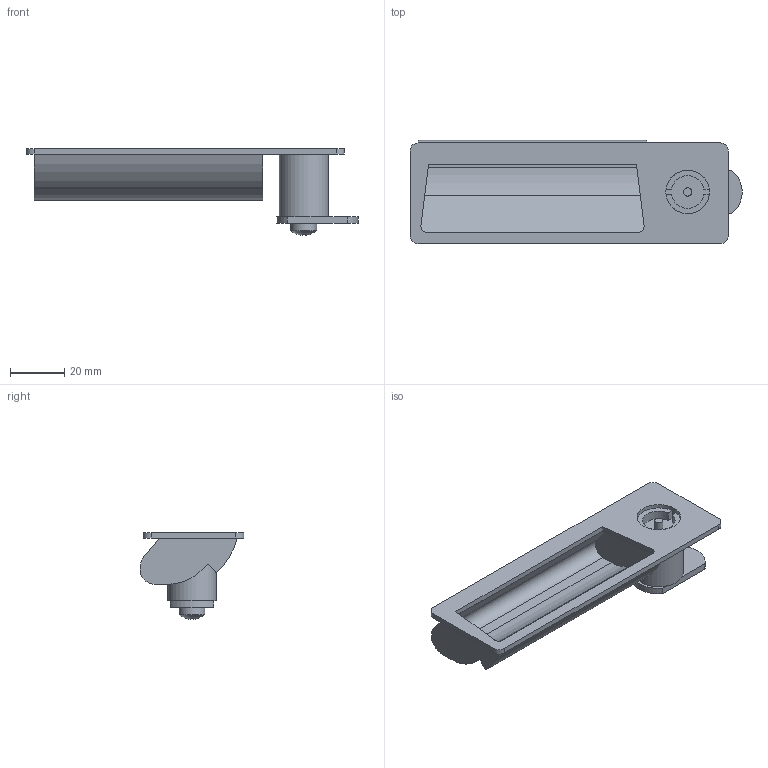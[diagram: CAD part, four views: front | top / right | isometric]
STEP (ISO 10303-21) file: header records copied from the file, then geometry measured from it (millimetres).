
FILE_DESCRIPTION( ( 'STEP AP203' ), '1' );
FILE_NAME( 'C:/Temp/Ganter_Step_05_03_2020/data/3_3/gn731_5/gn731_5_2/Latche with gripping tray GN 731.5-VDE-0-20-2-SG (0-23).stp', '2020-03-12T11:49:36', ( 'License CC BY-ND 4.0' ), ( 'CADENAS' ), ' ', 'PARTsolutions', ' ' );
FILE_SCHEMA( ( 'CONFIG_CONTROL_DESIGN' ) );
Length unit declared in the file: millimetre
Products named in the file (3): Latche with gripping tray GN 731.5-VDE-0-20-2-SG (0-23); _Latche with gripping tray GN 731.5-VDE-0-20-2-SG (0)_1; _Latche with gripping tray GN 731.5-VDE-0-20-2-SG (0-23)_2
Assembly tree (2 placements, depth 2):
  Latche with gripping tray GN 731.5-VDE-0-20-2-SG (0-23)
    _Latche with gripping tray GN 731.5-VDE-0-20-2-SG (0)_1
    _Latche with gripping tray GN 731.5-VDE-0-20-2-SG (0-23)_2
Bounding box: 121.96 x 38 x 31.88 mm (x, y, z)
Volume: 23423.2 mm3; surface area: 19424.3 mm2
Topology: 2 solids, 2 shells, 90 faces, 230 edges, 150 vertices
Faces by surface type: plane 66, cylinder 23, sphere 1
Full cylindrical faces by diameter (mm): 3 x1, 9.5 x1, 16 x1, 18 x1
Entity records: 2775 total; most frequent: DIRECTION 477, CARTESIAN_POINT 460, ORIENTED_EDGE 442, EDGE_CURVE 221, AXIS2_PLACEMENT_3D 163, LINE 151, VECTOR 151, VERTEX_POINT 146
